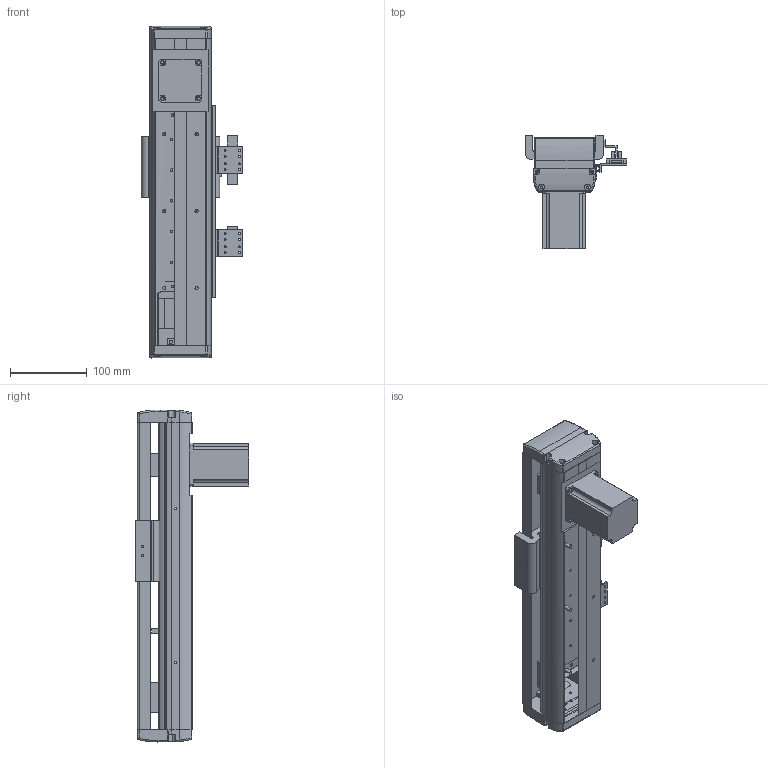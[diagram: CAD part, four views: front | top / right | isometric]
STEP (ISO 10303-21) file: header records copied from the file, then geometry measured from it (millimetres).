
FILE_DESCRIPTION (( 'STEP AP203' ), '1' );
FILE_NAME ('EXT80T-S100-2B.STEP', '2016-01-13T07:25:48', ( 'QQ' ), ( '' ), 'SwSTEP 2.0', 'SolidWorks 2013', '' );
FILE_SCHEMA (( 'CONFIG_CONTROL_DESIGN' ));
Length unit declared in the file: millimetre
Products named in the file (3): EXT80T-S100-2B-1; EXT80T-S100-2B
Assembly tree (2 placements, depth 2):
  EXT80T-S100-2B
    EXT80T-S100-2B-1
    EXT80T-S100-2B
Bounding box: 132 x 148 x 432.16 mm (x, y, z)
Surface area: 275913.1 mm2 (no closed solid volume)
Topology: 0 solids, 23 shells, 525 faces, 1877 edges, 1350 vertices
Faces by surface type: cylinder 259, plane 234, bspline 32
Entity records: 29455 total; most frequent: CARTESIAN_POINT 13658, ORIENTED_EDGE 3119, DIRECTION 2899, EDGE_CURVE 1877, VERTEX_POINT 1350, LINE 1071, VECTOR 1071, AXIS2_PLACEMENT_3D 914
